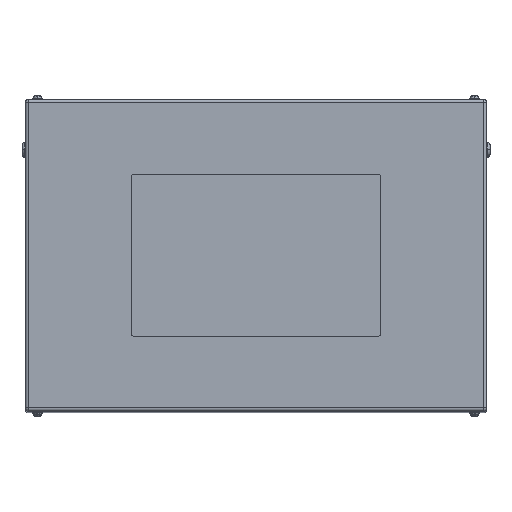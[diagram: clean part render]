
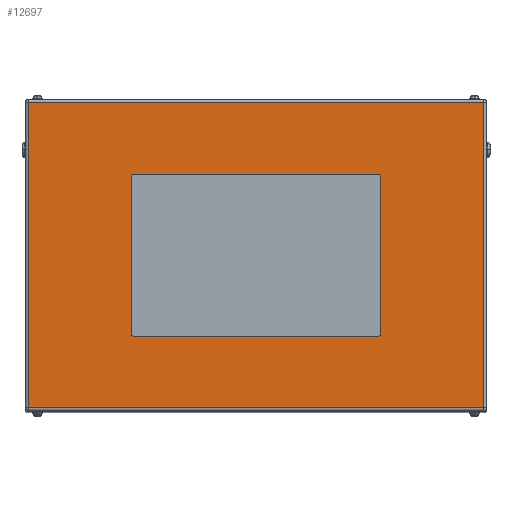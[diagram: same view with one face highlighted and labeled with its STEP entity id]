
A CAD part, top view. The second image highlights one B-rep face of the part: STEP entity #12697.
In plain terms, the highlighted planar face has unit normal (0, 0, 1).
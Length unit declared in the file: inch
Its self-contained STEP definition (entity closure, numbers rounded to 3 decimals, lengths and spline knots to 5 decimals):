
#26 = EDGE_CURVE ( 'NONE', #3986, #10080, #11371, .T. ) ;
#130 = CARTESIAN_POINT ( 'NONE',  ( -9.75, -6.5, 33.5 ) ) ;
#250 = EDGE_CURVE ( 'NONE', #17380, #5608, #7690, .T. ) ;
#454 = VERTEX_POINT ( 'NONE', #14201 ) ;
#480 = LINE ( 'NONE', #1747, #11319 ) ;
#539 = DIRECTION ( 'NONE',  ( 0., 0., 1. ) ) ;
#725 = VERTEX_POINT ( 'NONE', #3239 ) ;
#855 = CARTESIAN_POINT ( 'NONE',  ( 18.5, 12.5, 33.5 ) ) ;
#1009 = DIRECTION ( 'NONE',  ( 1., 0., 0. ) ) ;
#1065 = LINE ( 'NONE', #17180, #12121 ) ;
#1217 = CARTESIAN_POINT ( 'NONE',  ( 9.75, 6.5, 33.5 ) ) ;
#1348 = CARTESIAN_POINT ( 'NONE',  ( 10., 6.25, 33.5 ) ) ;
#1747 = CARTESIAN_POINT ( 'NONE',  ( -10., 6.25, 33.5 ) ) ;
#1834 = VERTEX_POINT ( 'NONE', #15824 ) ;
#2265 = EDGE_CURVE ( 'NONE', #18406, #17380, #14583, .T. ) ;
#2702 = CARTESIAN_POINT ( 'NONE',  ( -10., -6.25, 33.5 ) ) ;
#3167 = VERTEX_POINT ( 'NONE', #17778 ) ;
#3212 = ORIENTED_EDGE ( 'NONE', *, *, #4136, .F. ) ;
#3239 = CARTESIAN_POINT ( 'NONE',  ( 18.234, 12.234, 33.5 ) ) ;
#3289 = EDGE_CURVE ( 'NONE', #14660, #18406, #17389, .T. ) ;
#3506 = VERTEX_POINT ( 'NONE', #2702 ) ;
#3522 = DIRECTION ( 'NONE',  ( 0., 0., 1. ) ) ;
#3598 = ORIENTED_EDGE ( 'NONE', *, *, #11339, .T. ) ;
#3986 = VERTEX_POINT ( 'NONE', #18510 ) ;
#4136 = EDGE_CURVE ( 'NONE', #18121, #1834, #8809, .T. ) ;
#4383 = CIRCLE ( 'NONE', #4477, 0.25 ) ;
#4477 = AXIS2_PLACEMENT_3D ( 'NONE', #11952, #4872, #14780 ) ;
#4872 = DIRECTION ( 'NONE',  ( 0., 0., 1. ) ) ;
#4992 = EDGE_CURVE ( 'NONE', #5608, #18121, #11120, .T. ) ;
#5043 = PLANE ( 'NONE',  #11403 ) ;
#5056 = ORIENTED_EDGE ( 'NONE', *, *, #26, .T. ) ;
#5377 = EDGE_CURVE ( 'NONE', #1834, #3506, #480, .T. ) ;
#5480 = EDGE_LOOP ( 'NONE', ( #13516, #17965, #14541, #3212, #11931, #9684, #7785, #7913 ) ) ;
#5608 = VERTEX_POINT ( 'NONE', #1217 ) ;
#5665 = VECTOR ( 'NONE', #1009, 39.37008 ) ;
#5763 = VECTOR ( 'NONE', #13138, 39.37008 ) ;
#5954 = DIRECTION ( 'NONE',  ( -1., 0., 0. ) ) ;
#6305 = LINE ( 'NONE', #8867, #9693 ) ;
#6590 = VECTOR ( 'NONE', #18645, 39.37008 ) ;
#6634 = DIRECTION ( 'NONE',  ( -1., 0., 0. ) ) ;
#6825 = CARTESIAN_POINT ( 'NONE',  ( 10., 6.25, 33.5 ) ) ;
#6831 = CARTESIAN_POINT ( 'NONE',  ( -9.75, 6.5, 33.5 ) ) ;
#7032 = LINE ( 'NONE', #17987, #5665 ) ;
#7074 = EDGE_CURVE ( 'NONE', #3506, #454, #4383, .T. ) ;
#7476 = EDGE_LOOP ( 'NONE', ( #5056, #10319, #3598, #9602 ) ) ;
#7640 = CARTESIAN_POINT ( 'NONE',  ( 9.75, 6.25, 33.5 ) ) ;
#7690 = CIRCLE ( 'NONE', #12936, 0.25 ) ;
#7728 = CARTESIAN_POINT ( 'NONE',  ( -9.75, 6.5, 33.5 ) ) ;
#7777 = DIRECTION ( 'NONE',  ( -1., 0., 0. ) ) ;
#7785 = ORIENTED_EDGE ( 'NONE', *, *, #2265, .F. ) ;
#7899 = DIRECTION ( 'NONE',  ( 1., 0., 0. ) ) ;
#7913 = ORIENTED_EDGE ( 'NONE', *, *, #3289, .F. ) ;
#7960 = AXIS2_PLACEMENT_3D ( 'NONE', #16517, #3522, #7899 ) ;
#8634 = FACE_BOUND ( 'NONE', #5480, .T. ) ;
#8809 = CIRCLE ( 'NONE', #12298, 0.25 ) ;
#8867 = CARTESIAN_POINT ( 'NONE',  ( 18.5, 12.234, 33.5 ) ) ;
#9402 = VECTOR ( 'NONE', #15573, 39.37008 ) ;
#9469 = DIRECTION ( 'NONE',  ( 0., 0., -1. ) ) ;
#9542 = FACE_OUTER_BOUND ( 'NONE', #7476, .T. ) ;
#9602 = ORIENTED_EDGE ( 'NONE', *, *, #14563, .T. ) ;
#9684 = ORIENTED_EDGE ( 'NONE', *, *, #250, .F. ) ;
#9693 = VECTOR ( 'NONE', #5954, 39.37008 ) ;
#10080 = VERTEX_POINT ( 'NONE', #16457 ) ;
#10319 = ORIENTED_EDGE ( 'NONE', *, *, #14083, .T. ) ;
#10913 = VECTOR ( 'NONE', #13804, 39.37008 ) ;
#11120 = LINE ( 'NONE', #6831, #6590 ) ;
#11319 = VECTOR ( 'NONE', #17884, 39.37008 ) ;
#11339 = EDGE_CURVE ( 'NONE', #3167, #725, #1065, .T. ) ;
#11371 = LINE ( 'NONE', #12491, #10913 ) ;
#11403 = AXIS2_PLACEMENT_3D ( 'NONE', #855, #9469, #6634 ) ;
#11875 = EDGE_CURVE ( 'NONE', #454, #14660, #14122, .T. ) ;
#11931 = ORIENTED_EDGE ( 'NONE', *, *, #4992, .F. ) ;
#11952 = CARTESIAN_POINT ( 'NONE',  ( -9.75, -6.25, 33.5 ) ) ;
#12121 = VECTOR ( 'NONE', #18620, 39.37008 ) ;
#12298 = AXIS2_PLACEMENT_3D ( 'NONE', #17687, #13166, #14819 ) ;
#12491 = CARTESIAN_POINT ( 'NONE',  ( -18.234, 12.5, 33.5 ) ) ;
#12697 = ADVANCED_FACE ( 'NONE', ( #8634, #9542 ), #5043, .F. ) ;
#12936 = AXIS2_PLACEMENT_3D ( 'NONE', #7640, #539, #7777 ) ;
#13138 = DIRECTION ( 'NONE',  ( 1., 0., 0. ) ) ;
#13166 = DIRECTION ( 'NONE',  ( 0., 0., 1. ) ) ;
#13516 = ORIENTED_EDGE ( 'NONE', *, *, #11875, .F. ) ;
#13804 = DIRECTION ( 'NONE',  ( 0., -1., 0. ) ) ;
#14083 = EDGE_CURVE ( 'NONE', #10080, #3167, #7032, .T. ) ;
#14122 = LINE ( 'NONE', #130, #5763 ) ;
#14201 = CARTESIAN_POINT ( 'NONE',  ( -9.75, -6.5, 33.5 ) ) ;
#14541 = ORIENTED_EDGE ( 'NONE', *, *, #5377, .F. ) ;
#14563 = EDGE_CURVE ( 'NONE', #725, #3986, #6305, .T. ) ;
#14583 = LINE ( 'NONE', #1348, #9402 ) ;
#14660 = VERTEX_POINT ( 'NONE', #17835 ) ;
#14780 = DIRECTION ( 'NONE',  ( 1., 0., 0. ) ) ;
#14819 = DIRECTION ( 'NONE',  ( 1., 0., 0. ) ) ;
#15573 = DIRECTION ( 'NONE',  ( 0., 1., 0. ) ) ;
#15824 = CARTESIAN_POINT ( 'NONE',  ( -10., 6.25, 33.5 ) ) ;
#16457 = CARTESIAN_POINT ( 'NONE',  ( -18.234, -12.234, 33.5 ) ) ;
#16517 = CARTESIAN_POINT ( 'NONE',  ( 9.75, -6.25, 33.5 ) ) ;
#16537 = CARTESIAN_POINT ( 'NONE',  ( 10., -6.25, 33.5 ) ) ;
#17180 = CARTESIAN_POINT ( 'NONE',  ( 18.234, 12.5, 33.5 ) ) ;
#17380 = VERTEX_POINT ( 'NONE', #6825 ) ;
#17389 = CIRCLE ( 'NONE', #7960, 0.25 ) ;
#17687 = CARTESIAN_POINT ( 'NONE',  ( -9.75, 6.25, 33.5 ) ) ;
#17778 = CARTESIAN_POINT ( 'NONE',  ( 18.234, -12.234, 33.5 ) ) ;
#17835 = CARTESIAN_POINT ( 'NONE',  ( 9.75, -6.5, 33.5 ) ) ;
#17884 = DIRECTION ( 'NONE',  ( 0., -1., 0. ) ) ;
#17965 = ORIENTED_EDGE ( 'NONE', *, *, #7074, .F. ) ;
#17987 = CARTESIAN_POINT ( 'NONE',  ( 18.234, -12.234, 33.5 ) ) ;
#18121 = VERTEX_POINT ( 'NONE', #7728 ) ;
#18406 = VERTEX_POINT ( 'NONE', #16537 ) ;
#18510 = CARTESIAN_POINT ( 'NONE',  ( -18.234, 12.234, 33.5 ) ) ;
#18620 = DIRECTION ( 'NONE',  ( 0., 1., 0. ) ) ;
#18645 = DIRECTION ( 'NONE',  ( -1., 0., 0. ) ) ;
